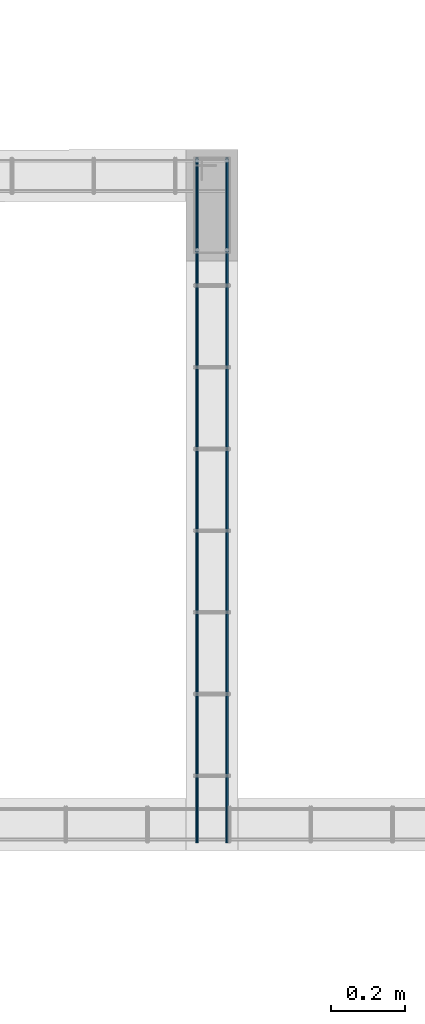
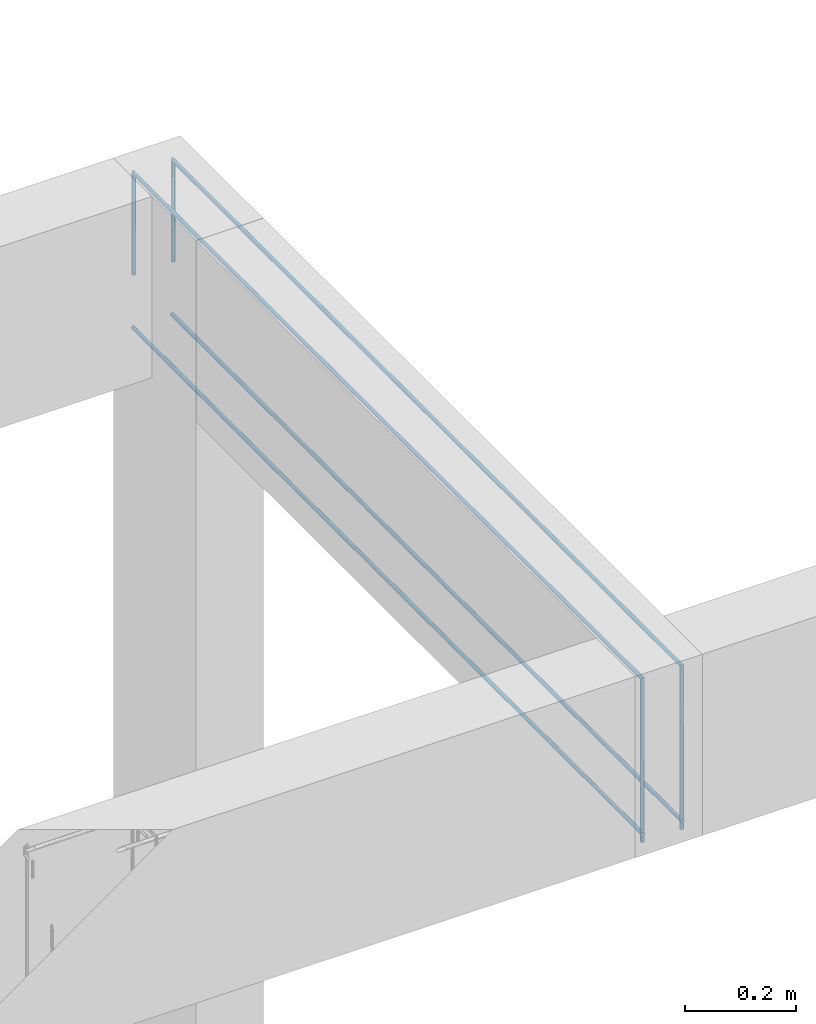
# One storey, part 81 of 236: 4 reinforcing bars.
"""IFC4 building model written with IfcOpenShell, lengths in centimetres."""

from ifc_helpers import new_model, entity, si_unit, derived_unit, frame, origin_with_axes, place, context, project, spatial, element, save


model = new_model("IFC4")

# Units and contexts
model_context = context("Model", 3, precision=1e-05, world=origin_with_axes(), identifier="Body")
ifc_project = project(units=[si_unit("LENGTHUNIT", "METRE", prefix="CENTI"), si_unit("VOLUMEUNIT", "CUBIC_METRE"), si_unit("AREAUNIT", "SQUARE_METRE"), si_unit("POWERUNIT", "WATT"), si_unit("LUMINOUSFLUXUNIT", "LUMEN"), si_unit("ELECTRICCURRENTUNIT", "AMPERE"), si_unit("PRESSUREUNIT", "PASCAL", prefix="KILO"), si_unit("MASSUNIT", "GRAM", prefix="KILO"), si_unit("PLANEANGLEUNIT", "RADIAN"), derived_unit("VOLUMETRICFLOWRATEUNIT", [(si_unit("LENGTHUNIT", "METRE"), 3), (si_unit("TIMEUNIT", "SECOND"), -1)])], contexts=[model_context])

# Site, building, storey
site_placement = place(None, frame((-4000.0, 0.0, 0.0), z_axis=(0.0, 0.0, 1.0), x_axis=(1.0, 0.0, 0.0)))
site = spatial("IfcSite", under=ifc_project, at=site_placement, Name="PADRÃO")
building_placement = place(site_placement, frame((0.0, 0.0, -14.0)))
building = spatial("IfcBuilding", under=site, at=building_placement, Name="CRECHE PRÉ-ESCOLA TIPO 2")
placement_1 = place(building_placement, origin_with_axes())
placement_2 = place(placement_1, frame((0.0, 0.0, 30.0), z_axis=(0.0, 0.0, 1.0), x_axis=(1.0, 0.0, 0.0)))
storey_placement = place(placement_2, frame((0.0, 0.0, 310.0), z_axis=(0.0, 0.0, 1.0), x_axis=(1.0, 0.0, 0.0)))
storey = spatial("IfcBuildingStorey", under=building, at=storey_placement, Name="TERREO", CompositionType="ELEMENT", Elevation=326.0)

# Reinforcing bars
for number, where, z_axis, x_axis, name in (
    (1, (2714.65, 1835.18, -36.7), (0.0, 0.0, 1.0), (1.0, 0.0, 0.0), "V302 - Longitudinal inferior"),
    (2, (2722.85, 1835.18, -36.7), (0.0, 0.0, 1.0), (1.0, 0.0, 0.0), "V302 - Longitudinal inferior"),
):
    element("IfcReinforcingBar", number, at=place(storey_placement, frame(where, z_axis=z_axis, x_axis=x_axis)), inside=storey, Name=name, BarLength=0.0, CrossSectionArea=5.0265482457e-05, NominalDiameter=0.8, PredefinedType="MAIN", context=model_context, shape_type="AdvancedSweptSolid", body=[
        entity("IfcSweptDiskSolid", entity("IfcCompositeCurve", [entity("IfcCompositeCurveSegment", "CONTINUOUS", True, entity("IfcPolyline", [entity("IfcCartesianPoint", [0.0, -92.34, -0.4]), entity("IfcCartesianPoint", [0.0, 92.34, -0.4])]))], False), 0.4),
    ])
for number, where, z_axis, x_axis, name in (
    (3, (2722.85, 1835.18, -2.49624973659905), (0.0, 0.0, 1.0), (1.0, 0.0, 0.0), "V302 - Longitudinal superior"),
    (4, (2714.65, 1835.18, -2.49624973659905), (0.0, 0.0, 1.0), (1.0, 0.0, 0.0), "V302 - Longitudinal superior"),
):
    element("IfcReinforcingBar", number, at=place(storey_placement, frame(where, z_axis=z_axis, x_axis=x_axis)), inside=storey, Name=name, BarLength=0.0, CrossSectionArea=5.0265482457e-05, NominalDiameter=0.8, PredefinedType="MAIN", context=model_context, shape_type="AdvancedSweptSolid", body=[
        entity("IfcSweptDiskSolid", entity("IfcCompositeCurve", [entity("IfcCompositeCurveSegment", "CONTINUOUS", True, entity("IfcPolyline", [entity("IfcCartesianPoint", [0.0, -91.94, -36.4037502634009]), entity("IfcCartesianPoint", [0.0, -91.94, -0.403750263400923])])), entity("IfcCompositeCurveSegment", "CONTINUOUS", True, entity("IfcPolyline", [entity("IfcCartesianPoint", [0.0, -91.94, -0.403750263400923]), entity("IfcCartesianPoint", [0.0, 91.94, -0.403750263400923])])), entity("IfcCompositeCurveSegment", "CONTINUOUS", True, entity("IfcPolyline", [entity("IfcCartesianPoint", [0.0, 91.94, -0.403750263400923]), entity("IfcCartesianPoint", [0.0, 91.94, -22.7014629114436])]))], False), 0.4),
    ])

save(model, "model.ifc")
